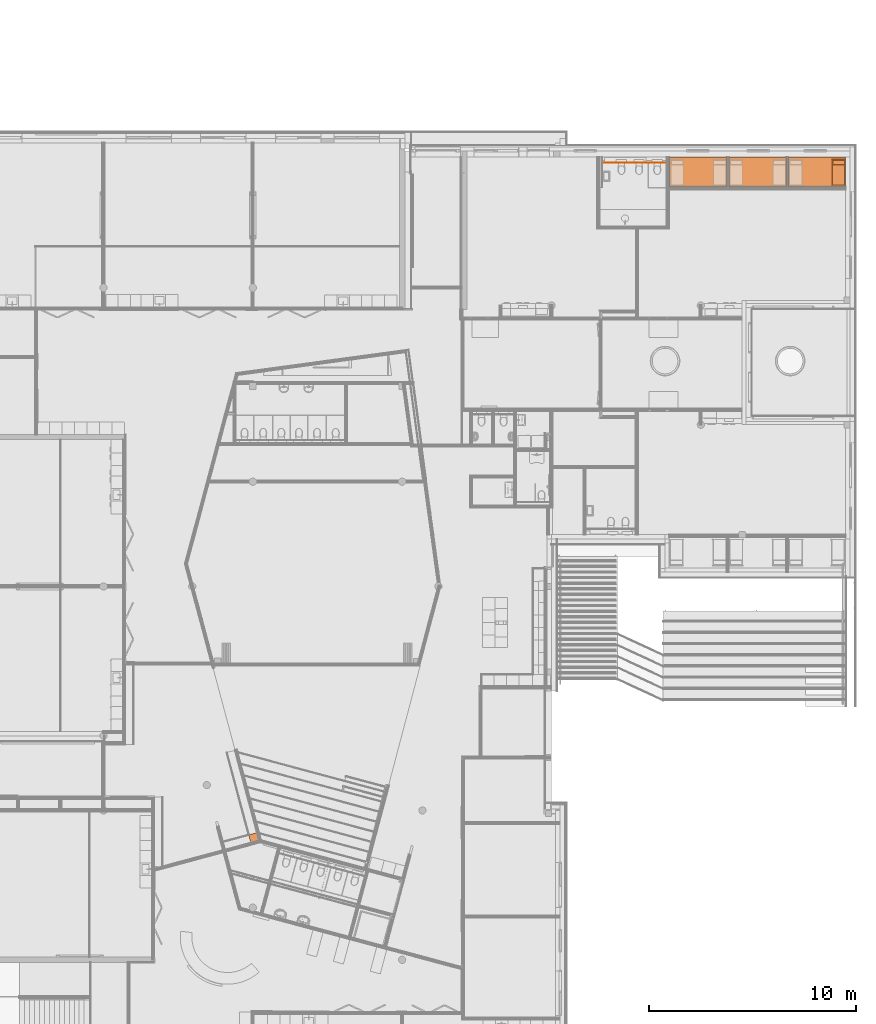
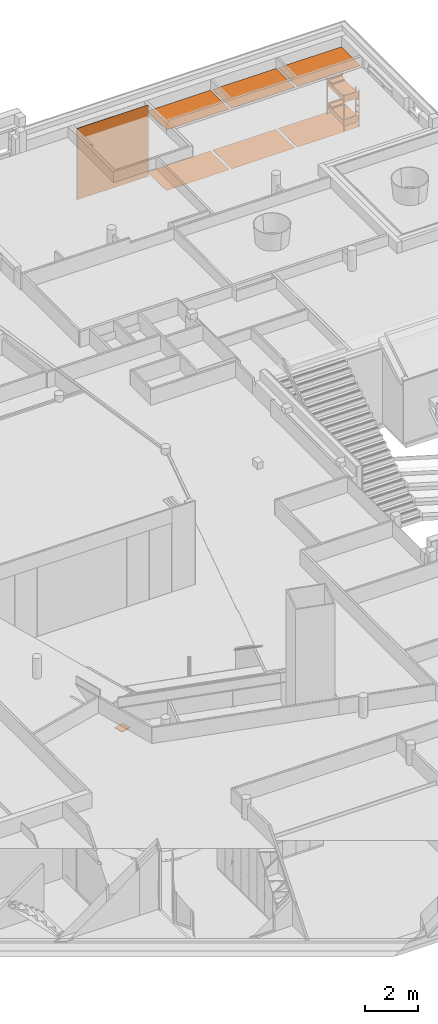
# One storey, part 162 of 167: 9 proxies.
"""IFC2X3 building model written with IfcOpenShell, lengths in millimetres."""

from ifc_helpers import new_model, entity, si_unit, converted_unit, derived_unit, money_unit, direction, frame, origin_with_axes, place, context, subcontext, project, spatial, faceted_brep, material, type_object, element, save


model = new_model("IFC2X3")

# Units and contexts
model_context = context("Model", 3, precision=0.01, world=origin_with_axes(), true_north=direction((0.0, 1.0)))
plan_context = context("Plan", 3, precision=0.01, world=origin_with_axes(), true_north=direction((0.0, 1.0)))
body_context = subcontext(model_context, "Body", "Model", "MODEL_VIEW")
ifc_project = project(units=[si_unit("LENGTHUNIT", "METRE", prefix="MILLI"), si_unit("AREAUNIT", "SQUARE_METRE"), si_unit("VOLUMEUNIT", "CUBIC_METRE"), converted_unit("PLANEANGLEUNIT", "DEGREE", entity("IfcPlaneAngleMeasure", 0.0174532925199), si_unit("PLANEANGLEUNIT", "RADIAN"), dimensions=[0, 0, 0, 0, 0, 0, 0]), si_unit("SOLIDANGLEUNIT", "STERADIAN"), money_unit("EUR"), converted_unit("TIMEUNIT", "Year", entity("IfcTimeMeasure", 31556926.0), si_unit("TIMEUNIT", "SECOND"), dimensions=[0, 0, 1, 0, 0, 0, 0]), si_unit("MASSUNIT", "GRAM", prefix="KILO"), si_unit("THERMODYNAMICTEMPERATUREUNIT", "DEGREE_CELSIUS"), si_unit("LUMINOUSINTENSITYUNIT", "LUMEN"), si_unit("ENERGYUNIT", "JOULE", prefix="MEGA"), derived_unit("THERMALCONDUCTANCEUNIT", [(si_unit("POWERUNIT", "WATT"), 1), (si_unit("LENGTHUNIT", "METRE"), -1), (si_unit("THERMODYNAMICTEMPERATUREUNIT", "KELVIN"), -1)]), derived_unit("SPECIFICHEATCAPACITYUNIT", [(si_unit("ENERGYUNIT", "JOULE"), 1), (si_unit("MASSUNIT", "GRAM", prefix="KILO"), -1), (si_unit("THERMODYNAMICTEMPERATUREUNIT", "KELVIN"), -1)]), derived_unit("MASSDENSITYUNIT", [(si_unit("MASSUNIT", "GRAM", prefix="KILO"), 1), (si_unit("VOLUMEUNIT", "CUBIC_METRE"), -1)])], contexts=[model_context, plan_context])

# Site, building, storey
site_placement = place(None, origin_with_axes())
site = spatial("IfcSite", under=ifc_project, at=site_placement, Name="Site", CompositionType="ELEMENT")
building_placement = place(site_placement, origin_with_axes())
building = spatial("IfcBuilding", under=site, at=building_placement, Name="Naam gebouw", CompositionType="ELEMENT")
storey_placement = place(building_placement, origin_with_axes())
storey = spatial("IfcBuildingStorey", under=building, at=storey_placement, Name="Begane grond", CompositionType="ELEMENT", Elevation=0.0)

# Proxies
ifc_material_1 = material(Name="ALG - BINNENAFWERKING")
building_element_proxy_type_1 = type_object("IfcBuildingElementProxyType", Name="ALG - BINNENAFWERKING 10", PredefinedType="NOTDEFINED")
proxy_1_placement = place(storey_placement, frame((34474.9998838, 48050.0001575, 2800.0), z_axis=(0.0, 0.0, 1.0), x_axis=(1.0, 0.0, 0.0)))
element("IfcBuildingElementProxy", 1, at=proxy_1_placement, inside=storey, type_object=building_element_proxy_type_1, material=ifc_material_1, Name="23__Vloer-x", context=body_context, shape_type="Brep", body=[
    faceted_brep([(2775.00002427, 1449.99984251, 0.0), (12.5000470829, 1449.99984251, 0.0), (12.5000470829, 1449.99984251, 10.0), (2775.00002427, 1449.99984251, 10.0), (2775.00002427, 12.5, 0.0), (12.5000470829, 12.5, 0.0), (12.5000470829, 12.5, 10.0), (2775.00002427, 12.5, 10.0)], [[[0, 1, 2, 3]], [[4, 5, 1, 0]], [[5, 6, 2, 1]], [[3, 2, 6, 7]], [[3, 7, 4, 0]], [[7, 6, 5, 4]]]),
])
proxy_2_placement = place(storey_placement, frame((40210.9999747, 48050.0001686, 2800.0), z_axis=(0.0, 0.0, 1.0), x_axis=(1.0, 0.0, 0.0)))
element("IfcBuildingElementProxy", 2, at=proxy_2_placement, inside=storey, type_object=building_element_proxy_type_1, material=ifc_material_1, Name="23__Vloer-x", context=body_context, shape_type="Brep", body=[
    faceted_brep([(13.9998839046, 1449.99984251, 10.0), (13.9998839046, 12.4999888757, 10.0), (2775.00002531, 12.4999888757, 10.0), (2775.00002427, 1449.99984251, 10.0), (13.9998839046, 1449.99984251, 0.0), (13.9998839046, 12.4999888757, 0.0), (2775.00002531, 12.4999888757, 0.0), (2775.00002427, 1449.99984251, 0.0)], [[[0, 1, 2, 3]], [[4, 5, 1, 0]], [[5, 6, 2, 1]], [[3, 2, 6, 7]], [[7, 4, 0, 3]], [[7, 6, 5, 4]]]),
])
proxy_3_placement = place(storey_placement, frame((37349.9998343, 48050.0001575, 2800.0), z_axis=(0.0, 0.0, 1.0), x_axis=(1.0, 0.0, 0.0)))
element("IfcBuildingElementProxy", 3, at=proxy_3_placement, inside=storey, type_object=building_element_proxy_type_1, material=ifc_material_1, Name="23__Vloer-x", context=body_context, shape_type="Brep", body=[
    faceted_brep([(0.0, 1449.99984251, 10.0), (0.0, 12.5, 10.0), (2775.00002427, 12.5, 10.0), (2775.00002427, 1449.99984251, 10.0), (0.0, 1449.99984251, 0.0), (0.0, 12.5, 0.0), (2775.00002427, 12.5, 0.0), (2775.00002427, 1449.99984251, 0.0)], [[[0, 1, 2, 3]], [[4, 5, 1, 0]], [[5, 6, 2, 1]], [[3, 2, 6, 7]], [[0, 3, 7, 4]], [[7, 6, 5, 4]]]),
])
ifc_material_2 = material(Name="_TenW_22_Gipsplaat watervast")
building_element_proxy_type_2 = type_object("IfcBuildingElementProxyType", Name="_TenW_22_Gipsvezelplaat watervast 15", PredefinedType="NOTDEFINED")
proxy_4_placement = place(storey_placement, frame((34374.9999301, 49220.0, 0.0), z_axis=(0.0, 0.0, 1.0), x_axis=(-1.0, 0.0, 0.0)))
element("IfcBuildingElementProxy", 4, at=proxy_4_placement, inside=storey, type_object=building_element_proxy_type_2, material=ifc_material_2, Name="22__Wand-x", context=body_context, shape_type="Brep", body=[
    faceted_brep([(3124.99997711, -15.0, 0.0), (3124.99997711, -15.0, 3305.0), (0.0, -15.0, 3305.0), (0.0, -15.0, 0.0), (3124.99997711, 0.0, 0.0), (3124.99997711, 0.0, 3305.0), (0.0, 0.0, 3305.0), (0.0, 0.0, 0.0)], [[[0, 1, 2, 3]], [[4, 5, 1, 0]], [[5, 6, 2, 1]], [[3, 2, 6, 7]], [[7, 4, 0, 3]], [[7, 6, 5, 4]]]),
])
building_element_proxy_type_3 = type_object("IfcBuildingElementProxyType", Name="Stapelbed 24", PredefinedType="NOTDEFINED")
proxy_5_placement = place(storey_placement, frame((42299.9998057, 48125.0001569, 0.0), z_axis=(0.0, 0.0, 1.0), x_axis=(1.0, 0.0, 0.0)))
element("IfcBuildingElementProxy", 5, at=proxy_5_placement, inside=storey, type_object=building_element_proxy_type_3, Name="__object-x", context=body_context, shape_type="Brep", body=[
    faceted_brep([(34.300009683, 1264.99999993, 0.0), (0.0, 1264.99999993, 0.0), (0.0, 1296.24999993, 0.0), (34.300009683, 1296.24999993, 0.0), (34.300009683, 1264.99999993, 1650.0), (0.0, 1264.99999993, 1650.0), (0.0, 1296.24999993, 1650.0), (34.300009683, 1296.24999993, 1650.0)], [[[0, 1, 2, 3]], [[1, 0, 4, 5]], [[2, 1, 5, 6]], [[3, 2, 6, 7]], [[0, 3, 7, 4]], [[5, 4, 7, 6]]]),
    faceted_brep([(34.300009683, -3.75000000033, 0.0), (0.0, -3.75000000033, 0.0), (0.0, 27.499999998, 0.0), (34.300009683, 27.499999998, 0.0), (34.300009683, -3.75000000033, 1650.0), (0.0, -3.75000000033, 1650.0), (0.0, 27.499999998, 1650.0), (34.300009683, 27.499999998, 1650.0)], [[[0, 1, 2, 3]], [[1, 0, 4, 5]], [[2, 1, 5, 6]], [[3, 2, 6, 7]], [[0, 3, 7, 4]], [[5, 4, 7, 6]]]),
    faceted_brep([(686.00019366, -3.75000000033, 0.0), (651.700183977, -3.75000000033, 0.0), (651.700183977, 27.499999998, 0.0), (686.00019366, 27.499999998, 0.0), (686.00019366, -3.75000000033, 1650.0), (651.700183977, -3.75000000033, 1650.0), (651.700183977, 27.499999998, 1650.0), (686.00019366, 27.499999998, 1650.0)], [[[0, 1, 2, 3]], [[1, 0, 4, 5]], [[2, 1, 5, 6]], [[3, 2, 6, 7]], [[0, 3, 7, 4]], [[5, 4, 7, 6]]]),
    faceted_brep([(686.00019366, 246.249999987, 0.0), (651.700183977, 246.249999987, 0.0), (651.700183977, 277.499999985, 0.0), (686.00019366, 277.499999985, 0.0), (686.00019366, 246.249999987, 1650.0), (651.700183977, 246.249999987, 1650.0), (651.700183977, 277.499999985, 1650.0), (686.00019366, 277.499999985, 1650.0)], [[[0, 1, 2, 3]], [[1, 0, 4, 5]], [[2, 1, 5, 6]], [[3, 2, 6, 7]], [[0, 3, 7, 4]], [[5, 4, 7, 6]]]),
    faceted_brep([(686.00019366, 1264.99999993, 0.0), (651.700183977, 1264.99999993, 0.0), (651.700183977, 1296.24999993, 0.0), (686.00019366, 1296.24999993, 0.0), (686.00019366, 1264.99999993, 1650.0), (651.700183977, 1264.99999993, 1650.0), (651.700183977, 1296.24999993, 1650.0), (686.00019366, 1296.24999993, 1650.0)], [[[0, 1, 2, 3]], [[1, 0, 4, 5]], [[2, 1, 5, 6]], [[3, 2, 6, 7]], [[0, 3, 7, 4]], [[5, 4, 7, 6]]]),
    faceted_brep([(651.700183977, 27.499999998, 550.0), (686.00019366, 27.499999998, 550.0), (686.00019366, 27.499999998, 600.0), (651.700183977, 27.499999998, 600.0), (651.700183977, 246.249999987, 550.0), (686.00019366, 246.249999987, 550.0), (686.00019366, 246.249999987, 600.0), (651.700183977, 246.249999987, 600.0)], [[[0, 1, 2, 3]], [[0, 4, 5, 1]], [[1, 5, 6, 2]], [[3, 2, 6, 7]], [[4, 0, 3, 7]], [[5, 4, 7, 6]]]),
    faceted_brep([(651.700183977, 27.499999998, 850.0), (686.00019366, 27.499999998, 850.0), (686.00019366, 27.499999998, 900.0), (651.700183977, 27.499999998, 900.0), (651.700183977, 246.249999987, 850.0), (686.00019366, 246.249999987, 850.0), (686.00019366, 246.249999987, 900.0), (651.700183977, 246.249999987, 900.0)], [[[0, 1, 2, 3]], [[0, 4, 5, 1]], [[1, 5, 6, 2]], [[3, 2, 6, 7]], [[4, 0, 3, 7]], [[5, 4, 7, 6]]]),
    faceted_brep([(651.700183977, 27.499999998, 1150.0), (686.00019366, 27.499999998, 1150.0), (686.00019366, 27.499999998, 1200.0), (651.700183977, 27.499999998, 1200.0), (651.700183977, 246.249999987, 1150.0), (686.00019366, 246.249999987, 1150.0), (686.00019366, 246.249999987, 1200.0), (651.700183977, 246.249999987, 1200.0)], [[[0, 1, 2, 3]], [[0, 4, 5, 1]], [[1, 5, 6, 2]], [[3, 2, 6, 7]], [[4, 0, 3, 7]], [[5, 4, 7, 6]]]),
    faceted_brep([(34.300009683, 1271.24999993, 200.0), (651.700183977, 1271.24999993, 200.0), (651.700183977, 21.2499999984, 200.0), (34.300009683, 21.2499999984, 200.0), (34.300009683, 1271.24999993, 300.0), (651.700183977, 1271.24999993, 300.0), (651.700183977, 21.2499999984, 300.0), (34.300009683, 21.2499999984, 300.0)], [[[0, 1, 2, 3]], [[0, 4, 5, 1]], [[1, 5, 6, 2]], [[3, 2, 6, 7]], [[4, 0, 3, 7]], [[5, 4, 7, 6]]]),
    faceted_brep([(651.700183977, 1271.24999993, 300.0), (651.700183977, 1271.24999993, 375.0), (651.700183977, 21.2499999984, 375.0), (651.700183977, 21.2499999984, 300.0), (34.300009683, 1271.24999993, 300.0), (34.300009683, 1271.24999993, 375.0), (39.3231298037, 1271.24999993, 392.67766953), (51.4500145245, 1271.24999993, 400.0), (634.550179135, 1271.24999993, 400.0), (646.677063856, 1271.24999993, 392.67766953), (646.677063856, 21.2499999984, 392.67766953), (634.550179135, 21.2499999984, 400.0), (51.4500145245, 21.2499999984, 400.0), (39.3231298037, 21.2499999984, 392.67766953), (34.300009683, 21.2499999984, 375.0), (34.300009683, 21.2499999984, 300.0)], [[[0, 1, 2, 3]], [[0, 4, 5, 6, 7, 8, 9, 1]], [[1, 9, 10, 2]], [[3, 2, 10, 11, 12, 13, 14, 15]], [[4, 0, 3, 15]], [[5, 4, 15, 14]], [[6, 5, 14, 13]], [[7, 6, 13, 12]], [[8, 7, 12, 11]], [[9, 8, 11, 10]]]),
    faceted_brep([(34.300009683, 1271.24999993, 1300.0), (651.700183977, 1271.24999993, 1300.0), (651.700183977, 21.2499999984, 1300.0), (34.300009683, 21.2499999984, 1300.0), (34.300009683, 1271.24999993, 1400.0), (651.700183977, 1271.24999993, 1400.0), (651.700183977, 21.2499999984, 1400.0), (34.300009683, 21.2499999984, 1400.0)], [[[0, 1, 2, 3]], [[0, 4, 5, 1]], [[1, 5, 6, 2]], [[3, 2, 6, 7]], [[4, 0, 3, 7]], [[5, 4, 7, 6]]]),
    faceted_brep([(651.700183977, 1271.24999993, 1400.0), (651.700183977, 1271.24999993, 1475.0), (651.700183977, 21.2499999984, 1475.0), (651.700183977, 21.2499999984, 1400.0), (34.300009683, 1271.24999993, 1400.0), (34.300009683, 1271.24999993, 1475.0), (39.3231298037, 1271.24999993, 1492.67766953), (51.4500145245, 1271.24999993, 1500.0), (634.550179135, 1271.24999993, 1500.0), (646.677063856, 1271.24999993, 1492.67766953), (646.677063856, 21.2499999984, 1492.67766953), (634.550179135, 21.2499999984, 1500.0), (51.4500145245, 21.2499999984, 1500.0), (39.3231298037, 21.2499999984, 1492.67766953), (34.300009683, 21.2499999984, 1475.0), (34.300009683, 21.2499999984, 1400.0)], [[[0, 1, 2, 3]], [[0, 4, 5, 6, 7, 8, 9, 1]], [[1, 9, 10, 2]], [[3, 2, 10, 11, 12, 13, 14, 15]], [[4, 0, 3, 15]], [[5, 4, 15, 14]], [[6, 5, 14, 13]], [[7, 6, 13, 12]], [[8, 7, 12, 11]], [[9, 8, 11, 10]]]),
    faceted_brep([(34.300009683, 21.2499999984, 200.0), (651.700183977, 21.2499999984, 200.0), (651.700183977, 2.49999999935, 200.0), (34.300009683, 2.49999999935, 200.0), (34.300009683, 21.2499999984, 500.0), (651.700183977, 21.2499999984, 500.0), (651.700183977, 2.49999999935, 500.0), (34.300009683, 2.49999999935, 500.0)], [[[0, 1, 2, 3]], [[0, 4, 5, 1]], [[1, 5, 6, 2]], [[3, 2, 6, 7]], [[4, 0, 3, 7]], [[5, 4, 7, 6]]]),
    faceted_brep([(34.300009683, 21.2499999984, 1300.0), (651.700183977, 21.2499999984, 1300.0), (651.700183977, 2.49999999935, 1300.0), (34.300009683, 2.49999999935, 1300.0), (34.300009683, 21.2499999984, 1600.0), (651.700183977, 21.2499999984, 1600.0), (651.700183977, 2.49999999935, 1600.0), (34.300009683, 2.49999999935, 1600.0)], [[[0, 1, 2, 3]], [[0, 4, 5, 1]], [[1, 5, 6, 2]], [[3, 2, 6, 7]], [[4, 0, 3, 7]], [[5, 4, 7, 6]]]),
    faceted_brep([(34.300009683, 1289.99999993, 200.0), (651.700183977, 1289.99999993, 200.0), (651.700183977, 1271.24999993, 200.0), (34.300009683, 1271.24999993, 200.0), (34.300009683, 1289.99999993, 500.0), (651.700183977, 1289.99999993, 500.0), (651.700183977, 1271.24999993, 500.0), (34.300009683, 1271.24999993, 500.0)], [[[0, 1, 2, 3]], [[0, 4, 5, 1]], [[1, 5, 6, 2]], [[3, 2, 6, 7]], [[4, 0, 3, 7]], [[5, 4, 7, 6]]]),
    faceted_brep([(34.300009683, 1289.99999993, 1300.0), (651.700183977, 1289.99999993, 1300.0), (651.700183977, 1271.24999993, 1300.0), (34.300009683, 1271.24999993, 1300.0), (34.300009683, 1289.99999993, 1600.0), (651.700183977, 1289.99999993, 1600.0), (651.700183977, 1271.24999993, 1600.0), (34.300009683, 1271.24999993, 1600.0)], [[[0, 1, 2, 3]], [[0, 4, 5, 1]], [[1, 5, 6, 2]], [[3, 2, 6, 7]], [[4, 0, 3, 7]], [[5, 4, 7, 6]]]),
    faceted_brep([(68.600019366, 1239.99999993, 400.0), (68.600019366, 1239.99999993, 443.4), (617.400174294, 1239.99999993, 443.4), (617.400174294, 1239.99999993, 400.0), (68.600019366, 989.999999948, 400.0), (68.600019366, 996.575217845, 436.730697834), (68.600019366, 1017.37499995, 455.5), (68.600019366, 1204.87499994, 493.0), (68.600019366, 1229.43106717, 480.878660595), (617.400174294, 1229.43106717, 480.878660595), (617.400174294, 1204.87499994, 493.0), (617.400174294, 1017.37499995, 455.5), (617.400174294, 996.575217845, 436.730697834), (617.400174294, 989.999999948, 400.0)], [[[0, 1, 2, 3]], [[0, 4, 5, 6, 7, 8, 1]], [[1, 8, 9, 2]], [[3, 2, 9, 10, 11, 12, 13]], [[4, 0, 3, 13]], [[5, 4, 13, 12]], [[6, 5, 12, 11]], [[7, 6, 11, 10]], [[8, 7, 10, 9]]]),
    faceted_brep([(68.600019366, 1239.99999993, 1500.0), (68.600019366, 1239.99999993, 1543.4), (617.400174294, 1239.99999993, 1543.4), (617.400174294, 1239.99999993, 1500.0), (68.600019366, 989.999999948, 1500.0), (68.600019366, 996.575217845, 1536.73069783), (68.600019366, 1017.37499995, 1555.5), (68.600019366, 1204.87499994, 1593.0), (68.600019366, 1229.43106717, 1580.8786606), (617.400174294, 1229.43106717, 1580.8786606), (617.400174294, 1204.87499994, 1593.0), (617.400174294, 1017.37499995, 1555.5), (617.400174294, 996.575217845, 1536.73069783), (617.400174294, 989.999999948, 1500.0)], [[[0, 1, 2, 3]], [[0, 4, 5, 6, 7, 8, 1]], [[1, 8, 9, 2]], [[3, 2, 9, 10, 11, 12, 13]], [[4, 0, 3, 13]], [[5, 4, 13, 12]], [[6, 5, 12, 11]], [[7, 6, 11, 10]], [[8, 7, 10, 9]]]),
])
ifc_material_3 = material(Name="_TenW_82_afw bamboe")
building_element_proxy_type_4 = type_object("IfcBuildingElementProxyType", Name="_TenW_82_afw bamboe 30", PredefinedType="NOTDEFINED")
proxy_6_placement = place(storey_placement, frame((14304.1758173, 16438.9123584, 1170.0), z_axis=(0.0, 0.0, 1.0), x_axis=(1.0, 0.0, 0.0)))
element("IfcBuildingElementProxy", 6, at=proxy_6_placement, inside=storey, type_object=building_element_proxy_type_4, material=ifc_material_3, Name="23__Vloer-x", context=body_context, shape_type="Brep", body=[
    faceted_brep([(0.0, 0.0, 30.0), (0.0, 0.0, 0.0), (406.625773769, 108.955047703, 0.0), (406.625773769, 108.955047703, 30.0), (-103.527618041, 386.370330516, 30.0), (-103.527618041, 386.370330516, 0.0), (303.098155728, 495.325378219, 0.0), (303.098155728, 495.325378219, 30.0)], [[[0, 1, 2, 3]], [[4, 5, 1, 0]], [[2, 1, 5, 6]], [[3, 2, 6, 7]], [[4, 0, 3, 7]], [[7, 6, 5, 4]]]),
])
ifc_material_4 = material(Name="_TenW_43_Green Welness")
building_element_proxy_type_5 = type_object("IfcBuildingElementProxyType", Name="_TenW_43_Green Welness 2", PredefinedType="NOTDEFINED")
proxy_7_placement = place(storey_placement, frame((34487.4999301, 48062.5001575, 0.0), z_axis=(0.0, 0.0, 1.0), x_axis=(1.0, 0.0, 0.0)))
element("IfcBuildingElementProxy", 7, at=proxy_7_placement, inside=storey, type_object=building_element_proxy_type_5, material=ifc_material_4, Name="23__Vloer-x", context=body_context, shape_type="Brep", body=[
    faceted_brep([(0.0, 0.0, 2.0), (0.0, 0.0, 0.0), (2762.49997803, 0.0, 0.0), (2762.49997803, 0.0, 2.0), (0.0, 1437.49985431, 2.0), (0.0, 1437.49985431, 0.0), (2762.49997803, 1437.49985431, 0.0), (2762.49997803, 1437.49985431, 2.0)], [[[0, 1, 2, 3]], [[4, 5, 1, 0]], [[2, 1, 5, 6]], [[3, 2, 6, 7]], [[4, 0, 3, 7]], [[7, 6, 5, 4]]]),
])
proxy_8_placement = place(storey_placement, frame((37349.9999139, 48062.5001575, 0.0), z_axis=(0.0, 0.0, 1.0), x_axis=(1.0, 0.0, 0.0)))
element("IfcBuildingElementProxy", 8, at=proxy_8_placement, inside=storey, type_object=building_element_proxy_type_5, material=ifc_material_4, Name="23__Vloer-x", context=body_context, shape_type="Brep", body=[
    faceted_brep([(0.0, 0.0, 2.0), (0.0, 0.0, 0.0), (2774.99994473, 0.0, 0.0), (2774.99994473, 0.0, 2.0), (0.0, 1437.49984251, 2.0), (0.0, 1437.49984251, 0.0), (2774.99994473, 1437.49984251, 0.0), (2774.99994473, 1437.49984251, 2.0)], [[[0, 1, 2, 3]], [[4, 5, 1, 0]], [[2, 1, 5, 6]], [[3, 2, 6, 7]], [[4, 0, 3, 7]], [[7, 6, 5, 4]]]),
])
proxy_9_placement = place(storey_placement, frame((40224.9998586, 48062.5001575, 0.0), z_axis=(0.0, 0.0, 1.0), x_axis=(1.0, 0.0, 0.0)))
element("IfcBuildingElementProxy", 9, at=proxy_9_placement, inside=storey, type_object=building_element_proxy_type_5, material=ifc_material_4, Name="23__Vloer-x", context=body_context, shape_type="Brep", body=[
    faceted_brep([(0.0, 0.0, 2.0), (0.0, 0.0, 0.0), (2761.00019561, 0.0, 0.0), (2761.00019561, 0.0, 2.0), (0.0, 1437.49958205, 2.0), (0.0, 1437.49958205, 0.0), (2761.00019561, 1437.49958205, 0.0), (2761.00019561, 1437.49958205, 2.0)], [[[0, 1, 2, 3]], [[4, 5, 1, 0]], [[2, 1, 5, 6]], [[3, 2, 6, 7]], [[4, 0, 3, 7]], [[7, 6, 5, 4]]]),
])

save(model, "model.ifc")
